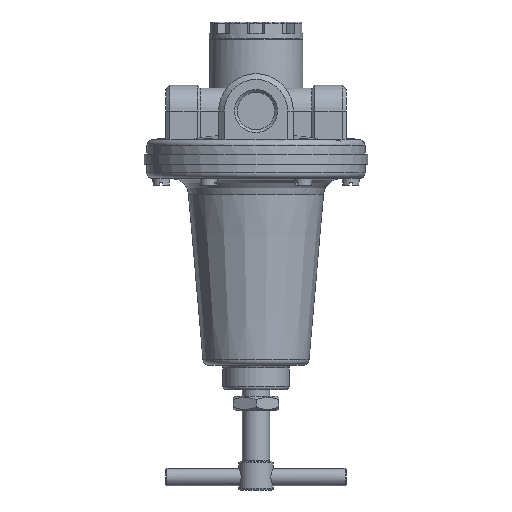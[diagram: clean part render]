
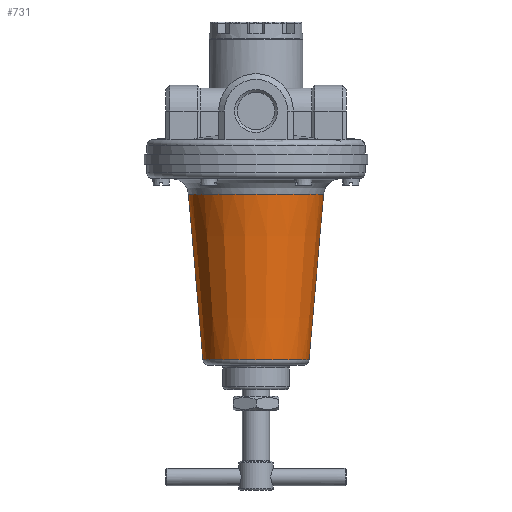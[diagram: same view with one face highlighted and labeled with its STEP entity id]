
A CAD part, front view. The second image highlights one B-rep face of the part: STEP entity #731.
In plain terms, the highlighted conical face has half-angle 5 degrees and reference radius 24 mm.
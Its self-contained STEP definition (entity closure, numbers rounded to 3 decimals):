
#700=CARTESIAN_POINT('',(-18.473,0.,-71.674));
#701=VERTEX_POINT('',#700);
#702=CARTESIAN_POINT('',(0.0,0.,-71.674));
#703=DIRECTION('',(0.0,0.0,-1.0));
#704=DIRECTION('',(1.0,0.0,0.0));
#705=AXIS2_PLACEMENT_3D('',#702,#703,#704);
#706=CIRCLE('',#705,18.473);
#707=EDGE_CURVE('',#701,#701,#706,.T.);
#712=CARTESIAN_POINT('',(0.0,0.0,-8.5));
#713=DIRECTION('',(0.0,0.0,1.0));
#714=DIRECTION('',(1.0,0.0,0.0));
#715=AXIS2_PLACEMENT_3D('',#712,#713,#714);
#716=CONICAL_SURFACE('',#715,24.,5.0);
#717=CARTESIAN_POINT('',(-23.521,0.0,-13.977));
#718=VERTEX_POINT('',#717);
#719=CARTESIAN_POINT('',(0.0,0.,-13.977));
#720=DIRECTION('',(0.0,0.0,1.0));
#721=DIRECTION('',(1.0,0.0,0.0));
#722=AXIS2_PLACEMENT_3D('',#719,#720,#721);
#723=CIRCLE('',#722,23.521);
#724=EDGE_CURVE('',#718,#718,#723,.T.);
#725=ORIENTED_EDGE('',*,*,#724,.F.);
#726=EDGE_LOOP('',(#725));
#727=FACE_OUTER_BOUND('',#726,.T.);
#728=ORIENTED_EDGE('',*,*,#707,.F.);
#729=EDGE_LOOP('',(#728));
#730=FACE_BOUND('',#729,.T.);
#731=ADVANCED_FACE('',(#727,#730),#716,.T.);
